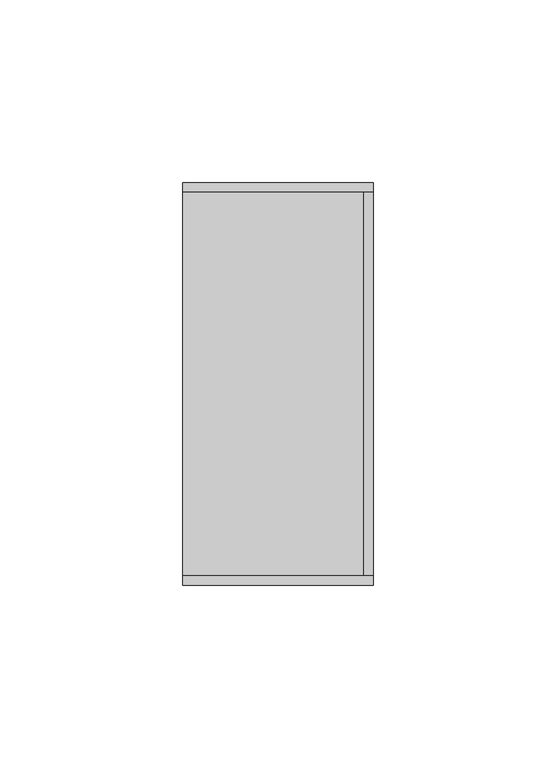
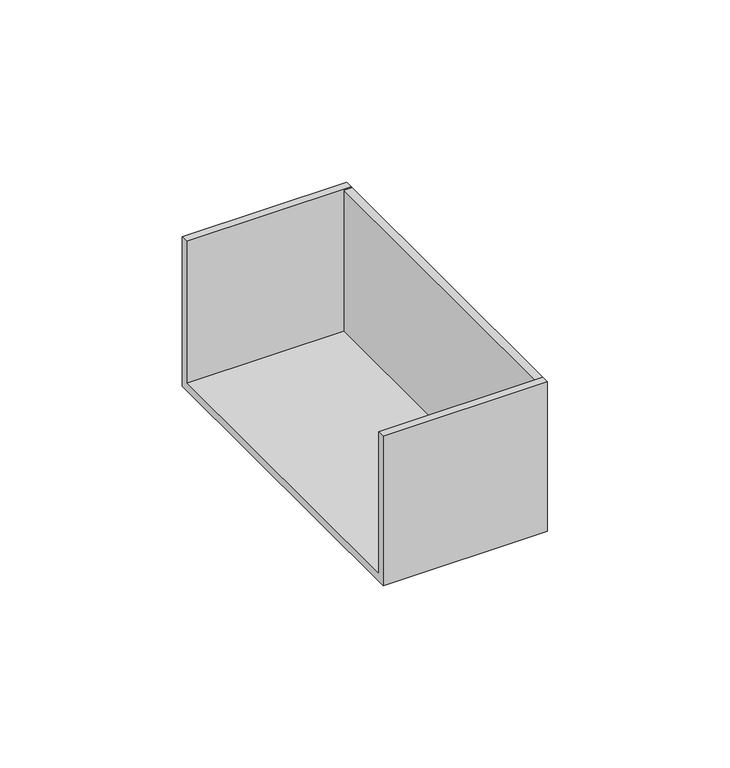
"""IFC4 building model written with IfcOpenShell, lengths in millimetres: cable carrier fitting geometry, КНС_ЗаглушкаТорцевая_ILF_DKC : Заглушка."""

from ifc_helpers import new_model, si_unit, frame, origin, place, context, project, spatial, polyline, outline, extrude, source, transform, mapped, element, save


def cable_carrier_fitting_42b9134f(model_context):
    return source(origin(), model_context, "Body", "SweptSolid", [
        extrude(outline(polyline([(55.0, -25.0), (-55.0, -25.0), (-55.0, 25.0), (-52.5, 25.0), (-52.5, -22.5), (52.5, -22.5), (52.5, 25.0), (55.0, 25.0), (55.0, -25.0)])), frame((-52.0, 0.0, 0.0), z_axis=(1.0, 0.0, 0.0), x_axis=(0.0, 1.0, 0.0)), (0.0, 0.0, 1.0), 52.0),
        extrude(outline(polyline([(0.0, 52.5), (0.0, -52.5), (-2.5, -52.5), (-2.5, 52.5), (0.0, 52.5)])), frame((0.0, 0.0, -25.0), z_axis=(0.0, 0.0, 1.0), x_axis=(1.0, 0.0, 0.0)), (0.0, 0.0, 1.0), 50.0),
    ])


if __name__ == "__main__":
    model = new_model("IFC4")
    model_context = context("Model", 3, world=origin())
    ifc_project = project(units=[si_unit("LENGTHUNIT", "METRE", prefix="MILLI")], contexts=[model_context])
    site = spatial("IfcSite", under=ifc_project)
    building = spatial("IfcBuilding", under=site)
    placement = place(None, origin())
    cable_carrier_fitting_shape = cable_carrier_fitting_42b9134f(model_context)
    element("IfcCableCarrierFitting", 1, ObjectType="КНС_ЗаглушкаТорцевая_ILF_DKC : Заглушка", at=placement, inside=building, context=model_context, shape_type="MappedRepresentation", body=[
        mapped(cable_carrier_fitting_shape, transform((0.0, 0.0, 0.0), x_axis=(1.0, 0.0, 0.0), y_axis=(0.0, 1.0, 0.0), z_axis=(0.0, 0.0, 1.0))),
    ])
    save(model, "model.ifc")
